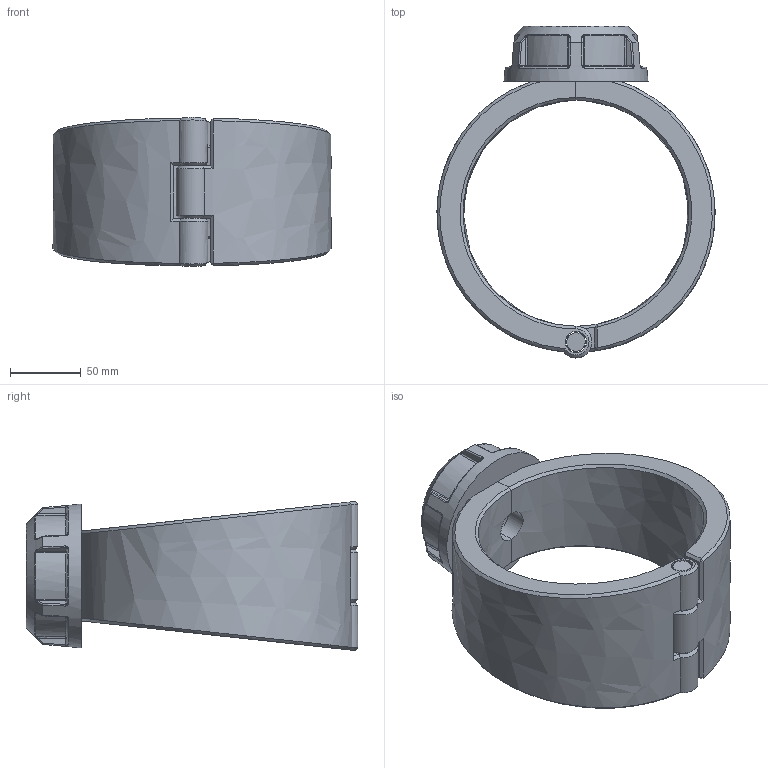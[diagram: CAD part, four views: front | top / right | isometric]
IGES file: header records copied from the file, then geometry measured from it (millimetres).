
Global section: file name: 163000160015; native system: Autodesk Inventor 2019; preprocessor: unknown; author: comp2; date: 20220203.115138; units: millimetre
Bounding box: 196.98 x 235 x 105.57 mm (x, y, z)
Volume: 1038793 mm3; surface area: 156581.5 mm2
Topology: 4 solids, 4 shells, 203 faces, 486 edges, 293 vertices
Faces by surface type: bspline 203
